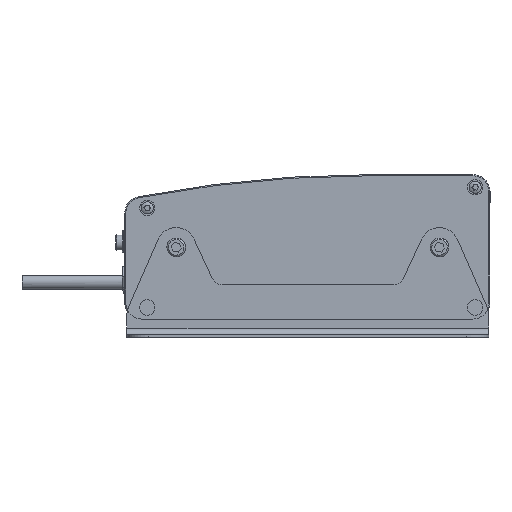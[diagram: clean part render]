
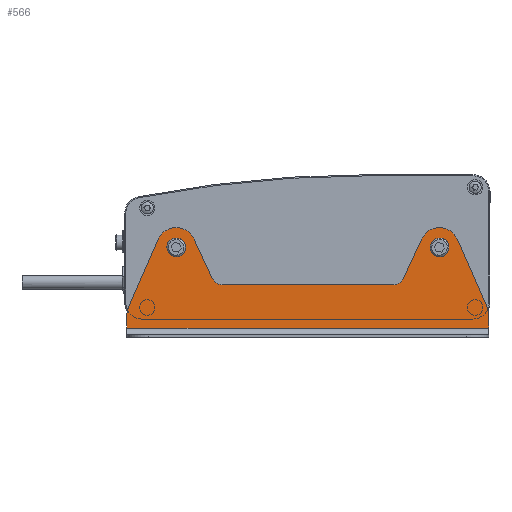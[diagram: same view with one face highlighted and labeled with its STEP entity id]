
A CAD part, left-side view. The second image highlights one B-rep face of the part: STEP entity #566.
In plain terms, the highlighted planar face has unit normal (-1, 0, 0).
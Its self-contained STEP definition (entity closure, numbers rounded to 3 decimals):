
#566 = ADVANCED_FACE( '', ( #11096, #11097, #11098 ), #11099, .F. );
#11096 = FACE_BOUND( '', #32219, .T. );
#11097 = FACE_BOUND( '', #32220, .T. );
#11098 = FACE_OUTER_BOUND( '', #32221, .T. );
#11099 = PLANE( '', #32222 );
#32219 = EDGE_LOOP( '', ( #58685 ) );
#32220 = EDGE_LOOP( '', ( #58686 ) );
#32221 = EDGE_LOOP( '', ( #58687, #58688, #58689, #58690, #58691, #58692, #58693, #58694, #58695, #58696, #58697, #58698, #58699, #58700 ) );
#32222 = AXIS2_PLACEMENT_3D( '', #58701, #58702, #58703 );
#58685 = ORIENTED_EDGE( '', *, *, #143054, .F. );
#58686 = ORIENTED_EDGE( '', *, *, #143055, .F. );
#58687 = ORIENTED_EDGE( '', *, *, #143056, .T. );
#58688 = ORIENTED_EDGE( '', *, *, #143057, .F. );
#58689 = ORIENTED_EDGE( '', *, *, #143020, .F. );
#58690 = ORIENTED_EDGE( '', *, *, #143024, .F. );
#58691 = ORIENTED_EDGE( '', *, *, #143027, .F. );
#58692 = ORIENTED_EDGE( '', *, *, #143030, .F. );
#58693 = ORIENTED_EDGE( '', *, *, #143033, .F. );
#58694 = ORIENTED_EDGE( '', *, *, #143036, .F. );
#58695 = ORIENTED_EDGE( '', *, *, #143039, .F. );
#58696 = ORIENTED_EDGE( '', *, *, #143042, .F. );
#58697 = ORIENTED_EDGE( '', *, *, #143045, .F. );
#58698 = ORIENTED_EDGE( '', *, *, #143048, .F. );
#58699 = ORIENTED_EDGE( '', *, *, #143051, .F. );
#58700 = ORIENTED_EDGE( '', *, *, #143058, .F. );
#58701 = CARTESIAN_POINT( '', ( -122.7, 73.8, -22.12 ) );
#58702 = DIRECTION( '', ( 1., 0., 0. ) );
#58703 = DIRECTION( '', ( 0., 0., 1. ) );
#143020 = EDGE_CURVE( '', #171290, #171291, #171292, .T. );
#143024 = EDGE_CURVE( '', #171297, #171290, #171298, .T. );
#143027 = EDGE_CURVE( '', #171302, #171297, #171303, .T. );
#143030 = EDGE_CURVE( '', #171307, #171302, #171308, .T. );
#143033 = EDGE_CURVE( '', #171312, #171307, #171313, .T. );
#143036 = EDGE_CURVE( '', #171317, #171312, #171318, .T. );
#143039 = EDGE_CURVE( '', #171322, #171317, #171323, .T. );
#143042 = EDGE_CURVE( '', #171327, #171322, #171328, .T. );
#143045 = EDGE_CURVE( '', #171332, #171327, #171333, .T. );
#143048 = EDGE_CURVE( '', #171337, #171332, #171338, .T. );
#143051 = EDGE_CURVE( '', #171342, #171337, #171343, .T. );
#143054 = EDGE_CURVE( '', #171346, #171346, #171347, .F. );
#143055 = EDGE_CURVE( '', #171348, #171348, #171349, .F. );
#143056 = EDGE_CURVE( '', #171350, #171351, #171352, .T. );
#143057 = EDGE_CURVE( '', #171291, #171351, #171353, .T. );
#143058 = EDGE_CURVE( '', #171350, #171342, #171354, .T. );
#171290 = VERTEX_POINT( '', #216383 );
#171291 = VERTEX_POINT( '', #216384 );
#171292 = CIRCLE( '', #216385, 10. );
#171297 = VERTEX_POINT( '', #216392 );
#171298 = LINE( '', #216393, #216394 );
#171302 = VERTEX_POINT( '', #216400 );
#171303 = CIRCLE( '', #216401, 9. );
#171307 = VERTEX_POINT( '', #216406 );
#171308 = LINE( '', #216407, #216408 );
#171312 = VERTEX_POINT( '', #216414 );
#171313 = CIRCLE( '', #216415, 5. );
#171317 = VERTEX_POINT( '', #216420 );
#171318 = LINE( '', #216421, #216422 );
#171322 = VERTEX_POINT( '', #216428 );
#171323 = CIRCLE( '', #216429, 5. );
#171327 = VERTEX_POINT( '', #216434 );
#171328 = LINE( '', #216435, #216436 );
#171332 = VERTEX_POINT( '', #216442 );
#171333 = CIRCLE( '', #216443, 9. );
#171337 = VERTEX_POINT( '', #216448 );
#171338 = LINE( '', #216449, #216450 );
#171342 = VERTEX_POINT( '', #216456 );
#171343 = CIRCLE( '', #216457, 10. );
#171346 = VERTEX_POINT( '', #216461 );
#171347 = CIRCLE( '', #216462, 4.25 );
#171348 = VERTEX_POINT( '', #216463 );
#171349 = CIRCLE( '', #216464, 4.25 );
#171350 = VERTEX_POINT( '', #216465 );
#171351 = VERTEX_POINT( '', #216466 );
#171352 = LINE( '', #216467, #216468 );
#171353 = LINE( '', #216469, #216470 );
#171354 = LINE( '', #216471, #216472 );
#216383 = CARTESIAN_POINT( '', ( -122.7, -7.858, -9.035 ) );
#216384 = CARTESIAN_POINT( '', ( -122.7, -8.7, -13.05 ) );
#216385 = AXIS2_PLACEMENT_3D( '', #294067, #294068, #294069 );
#216392 = CARTESIAN_POINT( '', ( -122.7, 5.557, 21.564 ) );
#216393 = CARTESIAN_POINT( '', ( -122.7, -1.152, 6.26 ) );
#216394 = VECTOR( '', #294075, 1000. );
#216400 = CARTESIAN_POINT( '', ( -122.7, 21.964, 21.737 ) );
#216401 = AXIS2_PLACEMENT_3D( '', #294078, #294079, #294080 );
#216406 = CARTESIAN_POINT( '', ( -122.7, 30.264, 3.846 ) );
#216407 = CARTESIAN_POINT( '', ( -122.7, 26.112, 12.796 ) );
#216408 = VECTOR( '', #294085, 1000. );
#216414 = CARTESIAN_POINT( '', ( -122.7, 34.8, 0.95 ) );
#216415 = AXIS2_PLACEMENT_3D( '', #294088, #294089, #294090 );
#216420 = CARTESIAN_POINT( '', ( -122.7, 112.8, 0.95 ) );
#216421 = CARTESIAN_POINT( '', ( -122.7, 74.602, 0.95 ) );
#216422 = VECTOR( '', #294095, 1000. );
#216428 = CARTESIAN_POINT( '', ( -122.7, 117.336, 3.846 ) );
#216429 = AXIS2_PLACEMENT_3D( '', #294098, #294099, #294100 );
#216434 = CARTESIAN_POINT( '', ( -122.7, 125.636, 21.737 ) );
#216435 = CARTESIAN_POINT( '', ( -122.7, 121.269, 12.324 ) );
#216436 = VECTOR( '', #294105, 1000. );
#216442 = CARTESIAN_POINT( '', ( -122.7, 142.043, 21.564 ) );
#216443 = AXIS2_PLACEMENT_3D( '', #294108, #294109, #294110 );
#216448 = CARTESIAN_POINT( '', ( -122.7, 155.458, -9.035 ) );
#216449 = CARTESIAN_POINT( '', ( -122.7, 148.501, 6.834 ) );
#216450 = VECTOR( '', #294115, 1000. );
#216456 = CARTESIAN_POINT( '', ( -122.7, 156.3, -13.05 ) );
#216457 = AXIS2_PLACEMENT_3D( '', #294118, #294119, #294120 );
#216461 = CARTESIAN_POINT( '', ( -122.7, 133.8, 13.7 ) );
#216462 = AXIS2_PLACEMENT_3D( '', #294125, #294126, #294127 );
#216463 = CARTESIAN_POINT( '', ( -122.7, 13.8, 13.7 ) );
#216464 = AXIS2_PLACEMENT_3D( '', #294128, #294129, #294130 );
#216465 = CARTESIAN_POINT( '', ( -122.7, 156.3, -18.85 ) );
#216466 = CARTESIAN_POINT( '', ( -122.7, -8.7, -18.85 ) );
#216467 = CARTESIAN_POINT( '', ( -122.7, 72.007, -18.85 ) );
#216468 = VECTOR( '', #294131, 1000. );
#216469 = CARTESIAN_POINT( '', ( -122.7, -8.7, -39.048 ) );
#216470 = VECTOR( '', #294132, 1000. );
#216471 = CARTESIAN_POINT( '', ( -122.7, 156.3, -38.338 ) );
#216472 = VECTOR( '', #294133, 1000. );
#294067 = CARTESIAN_POINT( '', ( -122.7, 1.3, -13.05 ) );
#294068 = DIRECTION( '', ( 1., 0., 0. ) );
#294069 = DIRECTION( '', ( 0., -1., 0. ) );
#294075 = DIRECTION( '', ( 0., -0.402, -0.916 ) );
#294078 = CARTESIAN_POINT( '', ( -122.7, 13.8, 17.95 ) );
#294079 = DIRECTION( '', ( 1., 0., 0. ) );
#294080 = DIRECTION( '', ( 0., -1., 0. ) );
#294085 = DIRECTION( '', ( 0., -0.421, 0.907 ) );
#294088 = CARTESIAN_POINT( '', ( -122.7, 34.8, 5.95 ) );
#294089 = DIRECTION( '', ( -1., 0., 0. ) );
#294090 = DIRECTION( '', ( 0., -1., 0. ) );
#294095 = DIRECTION( '', ( 0., -1., 0. ) );
#294098 = CARTESIAN_POINT( '', ( -122.7, 112.8, 5.95 ) );
#294099 = DIRECTION( '', ( -1., 0., 0. ) );
#294100 = DIRECTION( '', ( 0., -1., 0. ) );
#294105 = DIRECTION( '', ( 0., -0.421, -0.907 ) );
#294108 = CARTESIAN_POINT( '', ( -122.7, 133.8, 17.95 ) );
#294109 = DIRECTION( '', ( 1., 0., 0. ) );
#294110 = DIRECTION( '', ( 0., -1., 0. ) );
#294115 = DIRECTION( '', ( 0., -0.402, 0.916 ) );
#294118 = CARTESIAN_POINT( '', ( -122.7, 146.3, -13.05 ) );
#294119 = DIRECTION( '', ( 1., 0., 0. ) );
#294120 = DIRECTION( '', ( 0., -1., 0. ) );
#294125 = CARTESIAN_POINT( '', ( -122.7, 133.8, 17.95 ) );
#294126 = DIRECTION( '', ( 1., 0., 0. ) );
#294127 = DIRECTION( '', ( 0., 0., -1. ) );
#294128 = CARTESIAN_POINT( '', ( -122.7, 13.8, 17.95 ) );
#294129 = DIRECTION( '', ( 1., 0., 0. ) );
#294130 = DIRECTION( '', ( 0., 0., -1. ) );
#294131 = DIRECTION( '', ( 0., -1., 0. ) );
#294132 = DIRECTION( '', ( 0., 0., -1. ) );
#294133 = DIRECTION( '', ( 0., 0., 1. ) );
